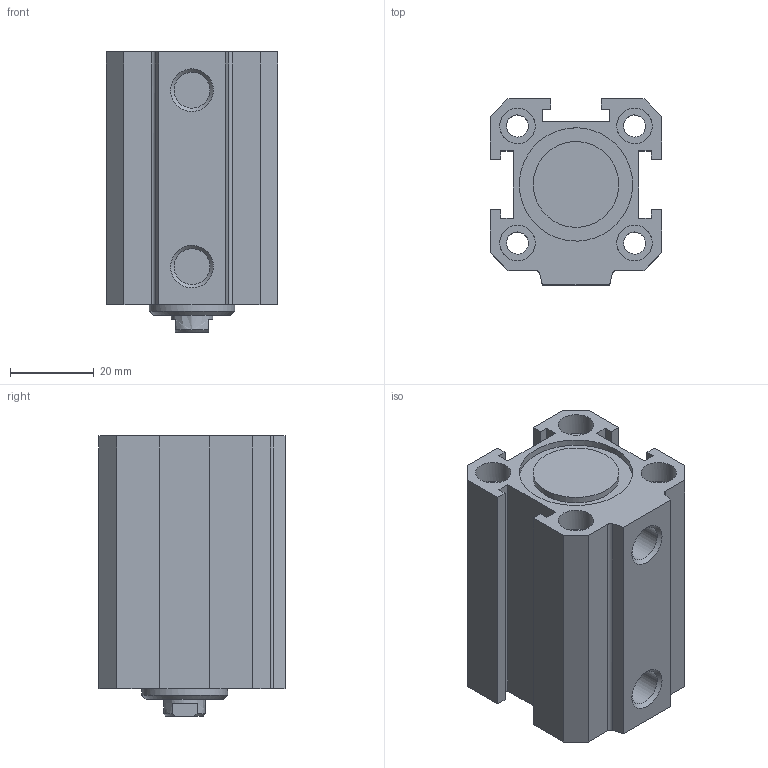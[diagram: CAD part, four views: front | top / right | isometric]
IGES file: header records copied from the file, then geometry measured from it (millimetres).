
Global section: file name: 1511_25_0025; native system: Autodesk Inventor 2014; preprocessor: unknown; author: A. Manieri; date: 20160824.111849; units: millimetre
Bounding box: 41 x 44.5 x 67 mm (x, y, z)
Volume: 70769.9 mm3; surface area: 29004.2 mm2
Topology: 2 solids, 2 shells, 93 faces, 241 edges, 170 vertices
Faces by surface type: bspline 93
